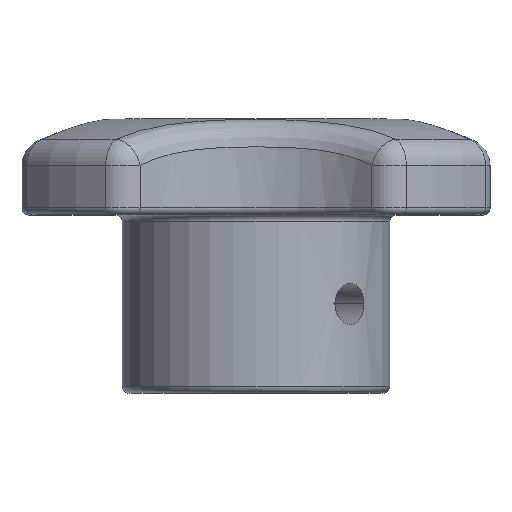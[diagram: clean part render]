
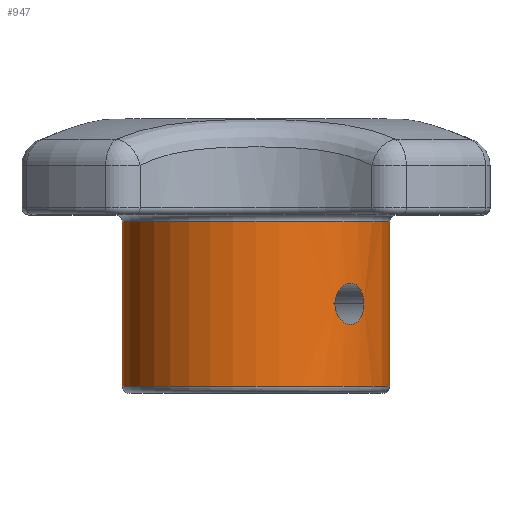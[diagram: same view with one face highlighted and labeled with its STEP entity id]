
A CAD part, top view. The second image highlights one B-rep face of the part: STEP entity #947.
In plain terms, the highlighted cylindrical face has radius 9.75 mm (diameter 19.5 mm), a partial arc.
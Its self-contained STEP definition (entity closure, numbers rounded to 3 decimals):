
#34 = DIRECTION ( 'NONE',  ( 0., 1., 0. ) ) ;
#37 = AXIS2_PLACEMENT_3D ( 'NONE', #2474, #1143, #2691 ) ;
#52 = CARTESIAN_POINT ( 'NONE',  ( 7.686, 7.415, 5.999 ) ) ;
#66 = CARTESIAN_POINT ( 'NONE',  ( 5.999, 7.415, 7.686 ) ) ;
#102 = EDGE_CURVE ( 'NONE', #2823, #213, #560, .T. ) ;
#145 = DIRECTION ( 'NONE',  ( 0., -1., 0. ) ) ;
#163 = CARTESIAN_POINT ( 'NONE',  ( 7.228, 5.077, 6.545 ) ) ;
#174 = CARTESIAN_POINT ( 'NONE',  ( 6.342, 5.199, 7.406 ) ) ;
#213 = VERTEX_POINT ( 'NONE', #422 ) ;
#241 = CARTESIAN_POINT ( 'NONE',  ( 5.752, 6.5, 7.873 ) ) ;
#268 = CARTESIAN_POINT ( 'NONE',  ( 7.516, 7.699, 6.212 ) ) ;
#279 = CARTESIAN_POINT ( 'NONE',  ( 5.875, 7.165, 7.781 ) ) ;
#290 = CARTESIAN_POINT ( 'NONE',  ( 0., 0., 0. ) ) ;
#323 = CARTESIAN_POINT ( 'NONE',  ( 5.752, 6.5, 7.873 ) ) ;
#378 = CARTESIAN_POINT ( 'NONE',  ( 9.75, 12.5, 0. ) ) ;
#389 = CARTESIAN_POINT ( 'NONE',  ( 7.69, 5.577, 5.996 ) ) ;
#399 = CARTESIAN_POINT ( 'NONE',  ( 6.157, 5.371, 7.56 ) ) ;
#422 = CARTESIAN_POINT ( 'NONE',  ( 7.873, 6.5, 5.752 ) ) ;
#474 = CYLINDRICAL_SURFACE ( 'NONE', #2716, 9.75 ) ;
#501 = CARTESIAN_POINT ( 'NONE',  ( 7.169, 7.96, 6.611 ) ) ;
#511 = CARTESIAN_POINT ( 'NONE',  ( 5.791, 6.89, 7.844 ) ) ;
#513 = ORIENTED_EDGE ( 'NONE', *, *, #2765, .T. ) ;
#532 = VECTOR ( 'NONE', #34, 1000. ) ;
#540 = FACE_BOUND ( 'NONE', #1942, .T. ) ;
#560 = B_SPLINE_CURVE_WITH_KNOTS ( 'NONE', 3,
 ( #241, #1331, #2638, #2860, #1721, #399, #1495, #174, #1268, #2816, #1053, #2596, #826, #2382, #163, #2159, #1931, #612, #1707, #389, #2807, #1481, #2587, #1256 ),
 .UNSPECIFIED., .F., .F.,
 ( 4, 2, 2, 2, 2, 2, 2, 2, 2, 2, 2, 4 ),
 ( 0.005, 0.005, 0.006, 0.006, 0.006, 0.007, 0.007, 0.008, 0.008, 0.008, 0.009, 0.009 ),
 .UNSPECIFIED. ) ;
#612 = CARTESIAN_POINT ( 'NONE',  ( 7.51, 5.306, 6.218 ) ) ;
#668 = CIRCLE ( 'NONE', #37, 9.75 ) ;
#701 = CARTESIAN_POINT ( 'NONE',  ( 7.873, 6.5, 5.752 ) ) ;
#714 = CARTESIAN_POINT ( 'NONE',  ( 6.825, 8., 6.963 ) ) ;
#722 = CARTESIAN_POINT ( 'NONE',  ( 5.752, 6.598, 7.873 ) ) ;
#826 = CARTESIAN_POINT ( 'NONE',  ( 7.032, 5.01, 6.755 ) ) ;
#909 = CARTESIAN_POINT ( 'NONE',  ( -9.75, 0., 0. ) ) ;
#931 = CARTESIAN_POINT ( 'NONE',  ( 7.867, 6.697, 5.76 ) ) ;
#944 = CARTESIAN_POINT ( 'NONE',  ( 6.614, 7.952, 7.165 ) ) ;
#947 = ADVANCED_FACE ( 'NONE', ( #540, #1123 ), #474, .T. ) ;
#1053 = CARTESIAN_POINT ( 'NONE',  ( 6.753, 5., 7.035 ) ) ;
#1062 = ORIENTED_EDGE ( 'NONE', *, *, #2196, .F. ) ;
#1072 = CIRCLE ( 'NONE', #1391, 9.75 ) ;
#1123 = FACE_OUTER_BOUND ( 'NONE', #1244, .T. ) ;
#1143 = DIRECTION ( 'NONE',  ( 0., 1., 0. ) ) ;
#1146 = CARTESIAN_POINT ( 'NONE',  ( 7.827, 6.984, 5.814 ) ) ;
#1156 = CARTESIAN_POINT ( 'NONE',  ( 6.34, 7.811, 7.409 ) ) ;
#1176 = CARTESIAN_POINT ( 'NONE',  ( -9.75, 0.5, 0. ) ) ;
#1243 = VECTOR ( 'NONE', #2022, 1000. ) ;
#1244 = EDGE_LOOP ( 'NONE', ( #513, #2858, #2798, #1062 ) ) ;
#1256 = CARTESIAN_POINT ( 'NONE',  ( 7.873, 6.5, 5.752 ) ) ;
#1268 = CARTESIAN_POINT ( 'NONE',  ( 6.407, 5.153, 7.35 ) ) ;
#1315 = LINE ( 'NONE', #1795, #1243 ) ;
#1331 = CARTESIAN_POINT ( 'NONE',  ( 5.752, 6.304, 7.873 ) ) ;
#1362 = CARTESIAN_POINT ( 'NONE',  ( 7.753, 7.252, 5.912 ) ) ;
#1374 = CARTESIAN_POINT ( 'NONE',  ( 6.049, 7.491, 7.647 ) ) ;
#1391 = AXIS2_PLACEMENT_3D ( 'NONE', #1463, #145, #1698 ) ;
#1412 = EDGE_CURVE ( 'NONE', #213, #2823, #2698, .T. ) ;
#1427 = ORIENTED_EDGE ( 'NONE', *, *, #1412, .F. ) ;
#1463 = CARTESIAN_POINT ( 'NONE',  ( 0., 12.5, 0. ) ) ;
#1481 = CARTESIAN_POINT ( 'NONE',  ( 7.849, 6.104, 5.784 ) ) ;
#1495 = CARTESIAN_POINT ( 'NONE',  ( 6.217, 5.308, 7.511 ) ) ;
#1597 = CARTESIAN_POINT ( 'NONE',  ( 7.647, 7.492, 6.049 ) ) ;
#1603 = CARTESIAN_POINT ( 'NONE',  ( 5.913, 7.253, 7.753 ) ) ;
#1611 = VERTEX_POINT ( 'NONE', #378 ) ;
#1643 = EDGE_CURVE ( 'NONE', #1611, #2063, #1072, .T. ) ;
#1698 = DIRECTION ( 'NONE',  ( 1., 0., 0. ) ) ;
#1702 = LINE ( 'NONE', #909, #532 ) ;
#1707 = CARTESIAN_POINT ( 'NONE',  ( 7.559, 5.37, 6.158 ) ) ;
#1721 = CARTESIAN_POINT ( 'NONE',  ( 5.994, 5.578, 7.691 ) ) ;
#1795 = CARTESIAN_POINT ( 'NONE',  ( 9.75, 0., 0. ) ) ;
#1814 = CARTESIAN_POINT ( 'NONE',  ( 7.409, 7.811, 6.341 ) ) ;
#1825 = CARTESIAN_POINT ( 'NONE',  ( 5.814, 6.984, 7.827 ) ) ;
#1843 = DIRECTION ( 'NONE',  ( -1., 0., 0. ) ) ;
#1931 = CARTESIAN_POINT ( 'NONE',  ( 7.405, 5.198, 6.343 ) ) ;
#1942 = EDGE_LOOP ( 'NONE', ( #1427, #2250 ) ) ;
#2022 = DIRECTION ( 'NONE',  ( 0., 1., 0. ) ) ;
#2034 = CARTESIAN_POINT ( 'NONE',  ( 7.873, 6.599, 5.752 ) ) ;
#2045 = CARTESIAN_POINT ( 'NONE',  ( 7.033, 8., 6.755 ) ) ;
#2054 = CARTESIAN_POINT ( 'NONE',  ( 5.76, 6.698, 7.867 ) ) ;
#2063 = VERTEX_POINT ( 'NONE', #2422 ) ;
#2159 = CARTESIAN_POINT ( 'NONE',  ( 7.348, 5.152, 6.409 ) ) ;
#2196 = EDGE_CURVE ( 'NONE', #2462, #2063, #1702, .T. ) ;
#2250 = ORIENTED_EDGE ( 'NONE', *, *, #102, .F. ) ;
#2267 = CARTESIAN_POINT ( 'NONE',  ( 6.754, 7.99, 7.033 ) ) ;
#2277 = CARTESIAN_POINT ( 'NONE',  ( 5.752, 6.5, 7.873 ) ) ;
#2282 = DIRECTION ( 'NONE',  ( 0., 1., 0. ) ) ;
#2382 = CARTESIAN_POINT ( 'NONE',  ( 7.163, 5.048, 6.615 ) ) ;
#2422 = CARTESIAN_POINT ( 'NONE',  ( -9.75, 12.5, 0. ) ) ;
#2462 = VERTEX_POINT ( 'NONE', #1176 ) ;
#2474 = CARTESIAN_POINT ( 'NONE',  ( 0., 0.5, 0. ) ) ;
#2476 = CARTESIAN_POINT ( 'NONE',  ( 7.844, 6.889, 5.791 ) ) ;
#2488 = CARTESIAN_POINT ( 'NONE',  ( 6.545, 7.923, 7.228 ) ) ;
#2518 = VERTEX_POINT ( 'NONE', #2747 ) ;
#2587 = CARTESIAN_POINT ( 'NONE',  ( 7.873, 6.302, 5.752 ) ) ;
#2596 = CARTESIAN_POINT ( 'NONE',  ( 6.964, 5., 6.825 ) ) ;
#2638 = CARTESIAN_POINT ( 'NONE',  ( 5.784, 6.106, 7.849 ) ) ;
#2691 = DIRECTION ( 'NONE',  ( 1., 0., 0. ) ) ;
#2693 = CARTESIAN_POINT ( 'NONE',  ( 7.781, 7.166, 5.875 ) ) ;
#2698 = B_SPLINE_CURVE_WITH_KNOTS ( 'NONE', 3,
 ( #701, #2034, #931, #2476, #1146, #2693, #1362, #52, #1597, #268, #1814, #501, #2045, #714, #2267, #944, #2488, #1156, #2702, #1374, #66, #1603, #279, #1825, #511, #2054, #722, #2277 ),
 .UNSPECIFIED., .F., .F.,
 ( 4, 2, 2, 2, 2, 2, 2, 2, 2, 2, 2, 2, 2, 4 ),
 ( 0., 0., 0.001, 0.001, 0.001, 0.002, 0.002, 0.003, 0.003, 0.004, 0.004, 0.004, 0.004, 0.005 ),
 .UNSPECIFIED. ) ;
#2702 = CARTESIAN_POINT ( 'NONE',  ( 6.213, 7.7, 7.515 ) ) ;
#2716 = AXIS2_PLACEMENT_3D ( 'NONE', #290, #2282, #1843 ) ;
#2747 = CARTESIAN_POINT ( 'NONE',  ( 9.75, 0.5, 0. ) ) ;
#2750 = EDGE_CURVE ( 'NONE', #2518, #1611, #1315, .T. ) ;
#2765 = EDGE_CURVE ( 'NONE', #2462, #2518, #668, .T. ) ;
#2798 = ORIENTED_EDGE ( 'NONE', *, *, #1643, .T. ) ;
#2807 = CARTESIAN_POINT ( 'NONE',  ( 7.758, 5.744, 5.906 ) ) ;
#2816 = CARTESIAN_POINT ( 'NONE',  ( 6.611, 5.039, 7.168 ) ) ;
#2823 = VERTEX_POINT ( 'NONE', #323 ) ;
#2858 = ORIENTED_EDGE ( 'NONE', *, *, #2750, .T. ) ;
#2860 = CARTESIAN_POINT ( 'NONE',  ( 5.905, 5.745, 7.759 ) ) ;
